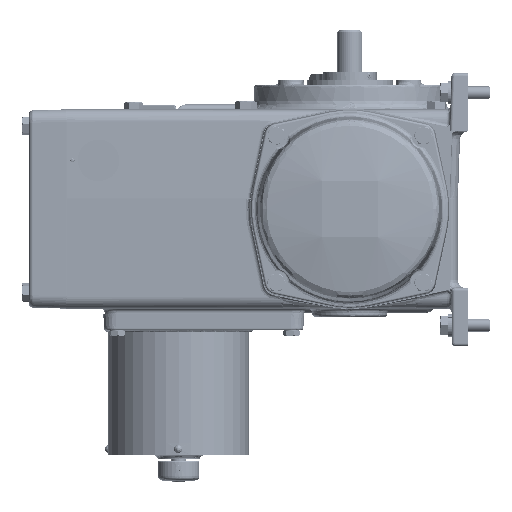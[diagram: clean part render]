
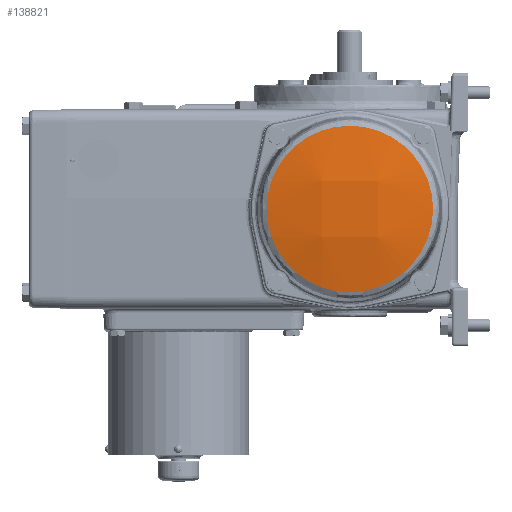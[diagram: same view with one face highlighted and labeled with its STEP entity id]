
A CAD part, left-side view. The second image highlights one B-rep face of the part: STEP entity #138821.
In plain terms, the highlighted free-form (B-spline) face has degree [3, 3] with [4, 4] control points.
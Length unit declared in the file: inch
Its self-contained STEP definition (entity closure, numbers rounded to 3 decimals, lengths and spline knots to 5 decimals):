
#2454 = CARTESIAN_POINT ( 'NONE',  ( -11.40737, -0.84012, 2.32176 ) ) ;
#7791 =( BOUNDED_SURFACE ( )  B_SPLINE_SURFACE ( 3, 3, ( 
 ( #223155, #96710, #244282, #125798 ),
 ( #174506, #224753, #101464, #219998 ),
 ( #119447, #146973, #23600, #291347 ),
 ( #148537, #2454, #44784, #273366 ) ),
 .UNSPECIFIED., .F., .F., .F. ) 
 B_SPLINE_SURFACE_WITH_KNOTS ( ( 4, 4 ),
 ( 4, 4 ),
 ( 0., 1. ),
 ( 0., 1. ),
 .UNSPECIFIED. ) 
 GEOMETRIC_REPRESENTATION_ITEM ( )  RATIONAL_B_SPLINE_SURFACE ( (
 ( 1., 0.982, 0.982, 1.),
 ( 0.982, 0.964, 0.964, 0.982),
 ( 0.982, 0.964, 0.964, 0.982),
 ( 1., 0.982, 0.982, 1.) ) ) 
 REPRESENTATION_ITEM ( '' )  SURFACE ( )  );
#20431 = FACE_OUTER_BOUND ( 'NONE', #158329, .T. ) ;
#23600 = CARTESIAN_POINT ( 'NONE',  ( -11.8076, 0.87124, 0.64719 ) ) ;
#44784 = CARTESIAN_POINT ( 'NONE',  ( -11.40737, 0.84012, 2.32176 ) ) ;
#55058 = ORIENTED_EDGE ( 'NONE', *, *, #130116, .F. ) ;
#56208 = AXIS2_PLACEMENT_3D ( 'NONE', #228749, #202845, #233561 ) ;
#72104 = DIRECTION ( 'NONE',  ( 0., 0., -1. ) ) ;
#76405 = VERTEX_POINT ( 'NONE', #316948 ) ;
#96710 = CARTESIAN_POINT ( 'NONE',  ( -11.40737, -0.84012, -2.74826 ) ) ;
#97701 = VERTEX_POINT ( 'NONE', #191024 ) ;
#101464 = CARTESIAN_POINT ( 'NONE',  ( -11.8076, 0.87124, -1.07369 ) ) ;
#113004 = ORIENTED_EDGE ( 'NONE', *, *, #275081, .F. ) ;
#119447 = CARTESIAN_POINT ( 'NONE',  ( -11.40473, -2.56651, 0.64719 ) ) ;
#125798 = CARTESIAN_POINT ( 'NONE',  ( -11.01888, 2.47482, -2.74826 ) ) ;
#130116 = EDGE_CURVE ( 'NONE', #76405, #97701, #288957, .T. ) ;
#138821 = ADVANCED_FACE ( 'NONE', ( #20431 ), #7791, .T. ) ;
#142188 = CIRCLE ( 'NONE', #318157, 2.50549 ) ;
#146973 = CARTESIAN_POINT ( 'NONE',  ( -11.8076, -0.87124, 0.64719 ) ) ;
#148537 = CARTESIAN_POINT ( 'NONE',  ( -11.01888, -2.47482, 2.32176 ) ) ;
#158329 = EDGE_LOOP ( 'NONE', ( #113004, #55058 ) ) ;
#172695 = CARTESIAN_POINT ( 'NONE',  ( -11.31586, 0., -0.21325 ) ) ;
#174506 = CARTESIAN_POINT ( 'NONE',  ( -11.40473, -2.56651, -1.07369 ) ) ;
#191024 = CARTESIAN_POINT ( 'NONE',  ( -11.31586, 0., -2.71874 ) ) ;
#202845 = DIRECTION ( 'NONE',  ( 1., 0., 0. ) ) ;
#219998 = CARTESIAN_POINT ( 'NONE',  ( -11.40473, 2.56651, -1.07369 ) ) ;
#223155 = CARTESIAN_POINT ( 'NONE',  ( -11.01888, -2.47482, -2.74826 ) ) ;
#224753 = CARTESIAN_POINT ( 'NONE',  ( -11.8076, -0.87124, -1.07369 ) ) ;
#228749 = CARTESIAN_POINT ( 'NONE',  ( -11.31586, 0., -0.21325 ) ) ;
#233561 = DIRECTION ( 'NONE',  ( 0., 0., -1. ) ) ;
#244282 = CARTESIAN_POINT ( 'NONE',  ( -11.40737, 0.84012, -2.74826 ) ) ;
#273366 = CARTESIAN_POINT ( 'NONE',  ( -11.01888, 2.47482, 2.32176 ) ) ;
#275081 = EDGE_CURVE ( 'NONE', #97701, #76405, #142188, .T. ) ;
#288957 = CIRCLE ( 'NONE', #56208, 2.50549 ) ;
#291347 = CARTESIAN_POINT ( 'NONE',  ( -11.40473, 2.56651, 0.64719 ) ) ;
#316948 = CARTESIAN_POINT ( 'NONE',  ( -11.31586, 0., 2.29224 ) ) ;
#317081 = DIRECTION ( 'NONE',  ( 1., 0., 0. ) ) ;
#318157 = AXIS2_PLACEMENT_3D ( 'NONE', #172695, #317081, #72104 ) ;
